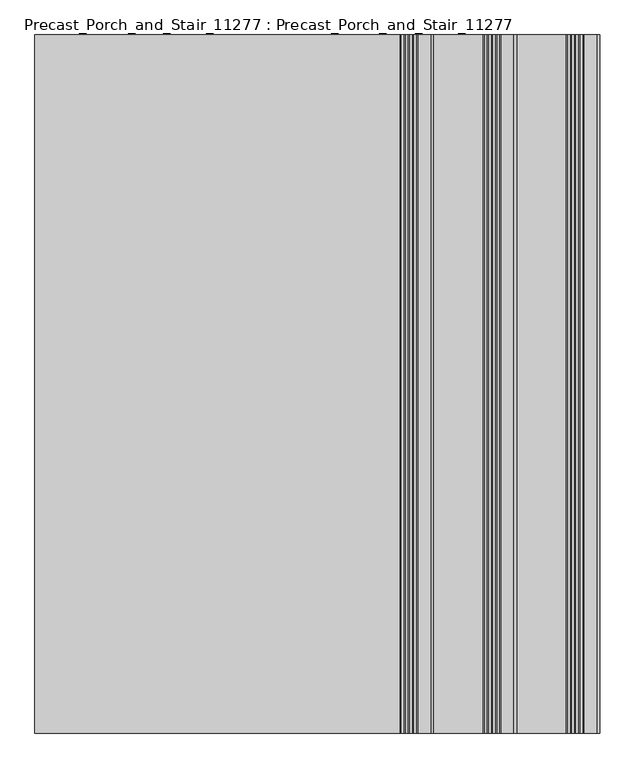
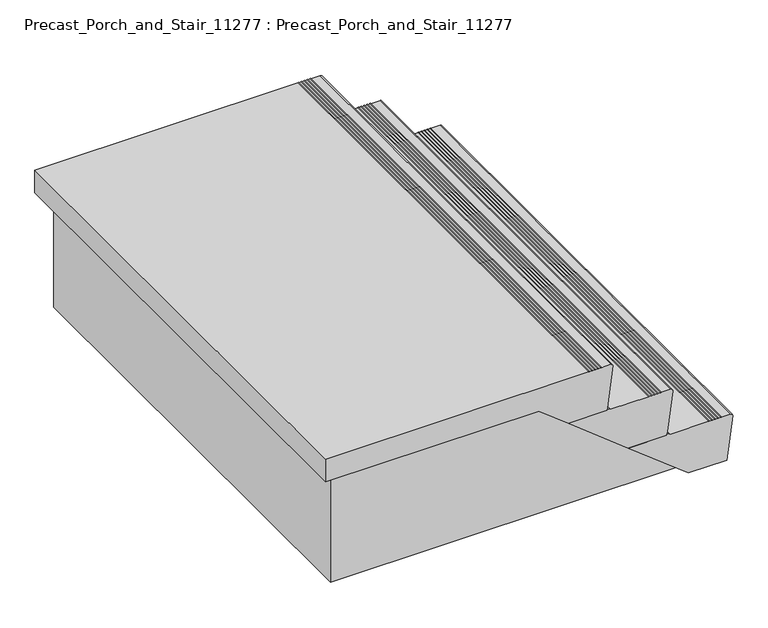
"""IFC4 building model written with IfcOpenShell, lengths in millimetres: proxy geometry, Precast_Porch_and_Stair_11277 : Precast_Porch_and_Stair_11277."""

import ifcopenshell
import ifcopenshell.guid

model = None  # the IFC model being written
_history = None  # IfcOwnerHistory: only IFC2X3 demands one
_inside = {}  # id of a spatial element -> (the spatial element, [elements in it])
_under = {}  # id of a project, library or spatial element -> (it, [spatial elements below it])
_declared = {}  # id of a project -> (the project, [libraries it declares])
_typed = {}  # id of a type object -> (the type object, [elements of that type])
_made_of = {}  # id of a material, layer set ... -> (it, [elements and type objects made of it])


def new_model(schema):
    """Start an empty IFC model of exactly this schema.

    Asked for "IFC4X3", IfcOpenShell would pick the latest addendum, in which some entities
    have other attributes; the version numbers below select the first issue.
    IFC2X3 requires an IfcOwnerHistory on every rooted entity: one is made here for all.
    """
    global model, _history
    if schema == "IFC4X3":
        model = ifcopenshell.file(schema_version=(4, 3, 0, 0))
    else:
        model = ifcopenshell.file(schema=schema)
    _inside.clear()
    _under.clear()
    _declared.clear()
    _typed.clear()
    _made_of.clear()
    _history = None
    if model.schema == "IFC2X3":
        org = make("IfcOrganization", Name="unknown")
        user = make(
            "IfcPersonAndOrganization",
            ThePerson=make("IfcPerson", FamilyName="unknown"),
            TheOrganization=org,
        )
        app = make(
            "IfcApplication",
            ApplicationDeveloper=org,
            Version="unknown",
            ApplicationFullName="unknown",
            ApplicationIdentifier="unknown",
        )
        _history = make(
            "IfcOwnerHistory",
            OwningUser=user,
            OwningApplication=app,
            ChangeAction="ADDED",
            CreationDate=0,
        )
    return model


def make(cls, **values):
    """One entity of the class cls with the attributes given. An attribute that is None is left unset."""
    return model.create_entity(
        cls, **{name: value for name, value in values.items() if value is not None}
    )


def rooted(cls, **values):
    """An entity with a GlobalId (a new one), such as an element, a storey or a relation."""
    return make(cls, GlobalId=ifcopenshell.guid.new(), OwnerHistory=_history, **values)


def si_unit(unit_type, name, prefix=None):
    """IfcSIUnit, for example si_unit("LENGTHUNIT", "METRE", prefix="MILLI")."""
    return make("IfcSIUnit", UnitType=unit_type, Prefix=prefix, Name=name)


def assignment(units):
    """IfcUnitAssignment: the units of a project."""
    return None if units is None else make("IfcUnitAssignment", Units=units)


def point(xyz):
    """IfcCartesianPoint."""
    return None if xyz is None else make("IfcCartesianPoint", Coordinates=xyz)


def direction(xyz):
    """IfcDirection."""
    return None if xyz is None else make("IfcDirection", DirectionRatios=xyz)


def frame(location, z_axis=None, x_axis=None):
    """IfcAxis2Placement3D, a coordinate frame: its origin and axes. An axis left out is left unset."""
    return make(
        "IfcAxis2Placement3D",
        Location=point(location),
        Axis=direction(z_axis),
        RefDirection=direction(x_axis),
    )


def frame_2d(location, x_axis=None):
    """IfcAxis2Placement2D, a coordinate frame in the plane: its origin and x axis."""
    return make(
        "IfcAxis2Placement2D", Location=point(location), RefDirection=direction(x_axis)
    )


def origin():
    """The frame at (0, 0, 0) with its axes left unset."""
    return frame((0.0, 0.0, 0.0))


def place(relative_to, where):
    """IfcLocalPlacement: puts the frame where relative to a parent placement (None: the world)."""
    return make(
        "IfcLocalPlacement", PlacementRelTo=relative_to, RelativePlacement=where
    )


def context(
    kind, dimensions, precision=None, world=None, true_north=None, identifier=None
):
    """IfcGeometricRepresentationContext, for example the 3D "Model" context."""
    return make(
        "IfcGeometricRepresentationContext",
        ContextIdentifier=identifier,
        ContextType=kind,
        CoordinateSpaceDimension=dimensions,
        Precision=precision,
        WorldCoordinateSystem=world,
        TrueNorth=true_north,
    )


def project(units=None, contexts=None):
    """IfcProject with its units and contexts."""
    return rooted(
        "IfcProject",
        Name="project",
        RepresentationContexts=contexts,
        UnitsInContext=assignment(units),
    )


def spatial(cls, under=None, at=None, **own):
    """A site, building, storey or space (cls), placed at a placement, below another one or the project."""
    s = rooted(cls, ObjectPlacement=at, **own)
    if under is not None:
        _under.setdefault(under.id(), (under, []))[1].append(s)
    return s


def polyline(points):
    """IfcPolyline through the points."""
    return make("IfcPolyline", Points=[point(p) for p in points])


def circle_curve(where, radius):
    """IfcCircle in the frame where."""
    return make("IfcCircle", Position=where, Radius=radius)


def trimmed(basis, trim1, trim2, sense, master):
    """IfcTrimmedCurve: the piece of a basis curve between two trims."""
    return make(
        "IfcTrimmedCurve",
        BasisCurve=basis,
        Trim1=trim1,
        Trim2=trim2,
        SenseAgreement=sense,
        MasterRepresentation=master,
    )


def segment(curve, same_sense, transition):
    """IfcCompositeCurveSegment."""
    return make(
        "IfcCompositeCurveSegment",
        Transition=transition,
        SameSense=same_sense,
        ParentCurve=curve,
    )


def composite_curve(segments, self_intersect=None):
    """IfcCompositeCurve: segments joined end to end."""
    return make("IfcCompositeCurve", Segments=segments, SelfIntersect=self_intersect)


def outline(outer, holes=None, kind="AREA"):
    """IfcArbitraryClosedProfileDef: a profile drawn as a closed curve; with holes, ...WithVoids."""
    if holes is None:
        return make("IfcArbitraryClosedProfileDef", ProfileType=kind, OuterCurve=outer)
    return make(
        "IfcArbitraryProfileDefWithVoids",
        ProfileType=kind,
        OuterCurve=outer,
        InnerCurves=holes,
    )


def extrude(swept, where, along, depth):
    """IfcExtrudedAreaSolid: the profile swept, set in the frame where, extruded along a direction by depth."""
    return make(
        "IfcExtrudedAreaSolid",
        SweptArea=swept,
        Position=where,
        ExtrudedDirection=direction(along),
        Depth=depth,
    )


def faces_of(points, faces, orient=None, outer=None):
    """IfcFace entities. A face is a list of loops; a loop is a list of indices into points, from 0.

    orient and outer hold one flag for each loop. By default every Orientation is true, the
    first loop of a face is its IfcFaceOuterBound and the others are IfcFaceBound.
    """
    made = []
    for i, loops in enumerate(faces):
        bounds = []
        for j, loop in enumerate(loops):
            is_outer = j == 0 if outer is None else outer[i][j]
            bounds.append(
                make(
                    "IfcFaceOuterBound" if is_outer else "IfcFaceBound",
                    Bound=make("IfcPolyLoop", Polygon=[points[k] for k in loop]),
                    Orientation=True if orient is None else orient[i][j],
                )
            )
        made.append(make("IfcFace", Bounds=bounds))
    return made


def faceted_brep(points, faces, orient=None, outer=None, voids=None):
    """IfcFacetedBrep: a solid bounded by flat faces; with voids (closed shells), ...WithVoids."""
    shared = [point(p) for p in points]
    hull = make("IfcClosedShell", CfsFaces=faces_of(shared, faces, orient, outer))
    if voids is None:
        return make("IfcFacetedBrep", Outer=hull)
    return make(
        "IfcFacetedBrepWithVoids",
        Outer=hull,
        Voids=[
            make(cls, CfsFaces=faces_of(shared, fs, o, b)) for cls, fs, o, b in voids
        ],
    )


def shape(context_of_items, identifier, shape_type, items):
    """IfcShapeRepresentation: the items that make up one representation, for example the "Body"."""
    return make(
        "IfcShapeRepresentation",
        ContextOfItems=context_of_items,
        RepresentationIdentifier=identifier,
        RepresentationType=shape_type,
        Items=items,
    )


def source(mapping_origin, context_of_items, identifier, shape_type, items):
    """IfcRepresentationMap: a shape defined once, which mapped items show again and again."""
    return make(
        "IfcRepresentationMap",
        MappingOrigin=mapping_origin,
        MappedRepresentation=shape(context_of_items, identifier, shape_type, items),
    )


def transform(
    local_origin,
    x_axis=None,
    y_axis=None,
    z_axis=None,
    scale=None,
    scale2=None,
    scale3=None,
    uniform=True,
):
    """IfcCartesianTransformationOperator3D, or its non-uniform kind. x_axis, y_axis, z_axis: its Axis1, 2, 3."""
    if uniform:
        return make(
            "IfcCartesianTransformationOperator3D",
            Axis1=direction(x_axis),
            Axis2=direction(y_axis),
            LocalOrigin=point(local_origin),
            Scale=scale,
            Axis3=direction(z_axis),
        )
    return make(
        "IfcCartesianTransformationOperator3DnonUniform",
        Axis1=direction(x_axis),
        Axis2=direction(y_axis),
        LocalOrigin=point(local_origin),
        Scale=scale,
        Axis3=direction(z_axis),
        Scale2=scale2,
        Scale3=scale3,
    )


def mapped(mapping_source, mapping_target):
    """IfcMappedItem: shows the shape of a source again, moved by a transform."""
    return make(
        "IfcMappedItem", MappingSource=mapping_source, MappingTarget=mapping_target
    )


def made_of(thing, what):
    """Note that an element or type object is made of a material, layer set ...; save() writes the relation."""
    if what is not None:
        _made_of.setdefault(what.id(), (what, []))[1].append(thing)
    return thing


def element(
    cls,
    number,
    at=None,
    inside=None,
    cuts=None,
    type_object=None,
    material=None,
    context=None,
    identifier="Body",
    shape_type=None,
    held_by="IfcProductDefinitionShape",
    body=None,
    shapes=None,
    **own,
):
    """One element of the class cls, such as IfcWall. Its Tag is "e" and its number.

    at: its placement. inside: the storey or other place that contains it. cuts: it is an
    opening in that element (IfcRelVoidsElement). A single representation is given by context,
    identifier, shape_type and body (its items); several are given by shapes. held_by: the class
    of the entity that holds the representations. save() writes the other relations.
    """
    e = rooted(cls, Tag="e%d" % number, ObjectPlacement=at, **own)
    if body is not None:
        shapes = [shape(context, identifier, shape_type, body)]
    if shapes is not None:
        e.Representation = make(held_by, Representations=shapes)
    if inside is not None:
        _inside.setdefault(inside.id(), (inside, []))[1].append(e)
    if cuts is not None:
        rooted(
            "IfcRelVoidsElement", RelatingBuildingElement=cuts, RelatedOpeningElement=e
        )
    if type_object is not None:
        _typed.setdefault(type_object.id(), (type_object, []))[1].append(e)
    return made_of(e, material)


def aggregate(whole, parts):
    """IfcRelAggregates: a whole, such as a stair, and the parts it consists of."""
    return rooted("IfcRelAggregates", RelatingObject=whole, RelatedObjects=parts)


def save(model, path):
    """Write the relations noted so far, then the file.

    IfcRelAggregates (storeys below a building ...), IfcRelContainedInSpatialStructure (elements
    in a storey), IfcRelDefinesByType, IfcRelAssociatesMaterial and IfcRelDeclares: one each for
    every whole, place, type object, material and project.
    """
    for whole, parts in _under.values():
        aggregate(whole, parts)
    for where, things in _inside.values():
        rooted(
            "IfcRelContainedInSpatialStructure",
            RelatedElements=things,
            RelatingStructure=where,
        )
    for kind, things in _typed.values():
        rooted("IfcRelDefinesByType", RelatedObjects=things, RelatingType=kind)
    for what, things in _made_of.values():
        rooted("IfcRelAssociatesMaterial", RelatedObjects=things, RelatingMaterial=what)
    for by, libraries in _declared.values():
        rooted("IfcRelDeclares", RelatingContext=by, RelatedDefinitions=libraries)
    model.write(path)


def plane_surface(at):
    """IfcPlane: the flat surface through the origin of the frame at, square to its z axis."""
    return make("IfcPlane", Position=at)


def cylinder_surface(at, radius):
    """IfcCylindricalSurface: all points at the distance radius from the z axis of the frame at."""
    return make("IfcCylindricalSurface", Position=at, Radius=radius)


def advanced_brep(points, edges, surfaces, faces):
    """IfcAdvancedBrep: a solid bounded by faces that lie on surfaces and meet in shared edges.

    An edge is (start, end): straight between two places in points (the first is 0);
    or (start, end, curve); or (start, end, curve, False) where it runs against its curve.
    A face is (place in surfaces, loops), or (place, loops, False) where it looks against
    its surface's normal. A loop lists edges by number (the first is 1), with a minus sign
    where the edge is run from its end to its start. The first loop is the outer one.
    """
    corners = [point(p) for p in points]
    vertices = [make("IfcVertexPoint", VertexGeometry=c) for c in corners]
    made = []
    for start, end, *more in edges:
        made.append(
            make(
                "IfcEdgeCurve",
                EdgeStart=vertices[start],
                EdgeEnd=vertices[end],
                EdgeGeometry=more[0] if more else make("IfcPolyline", Points=[corners[start], corners[end]]),
                SameSense=more[1] if len(more) > 1 else True,
            )
        )
    hull = []
    for where, loops, *sense in faces:
        bounds = []
        for j, loop in enumerate(loops):
            ring = [make("IfcOrientedEdge", EdgeElement=made[abs(k) - 1], Orientation=k > 0) for k in loop]
            bounds.append(
                make(
                    "IfcFaceOuterBound" if j == 0 else "IfcFaceBound",
                    Bound=make("IfcEdgeLoop", EdgeList=ring),
                    Orientation=True,
                )
            )
        hull.append(make("IfcAdvancedFace", Bounds=bounds, FaceSurface=surfaces[where], SameSense=sense[0] if sense else True))
    return make("IfcAdvancedBrep", Outer=make("IfcClosedShell", CfsFaces=hull))


def precast_porch_and_stair_11277_precast_porch_and_stair_11277_55bbf17a(model_context):
    return source(origin(), model_context, "Body", "SolidModel", [
        advanced_brep(
        [(0.0, -1066.8, 600.075), (0.0, -1066.8, 498.475), (904.5975565, -1066.8, 498.475), (1029.5816835, -1066.8, 400.05), (1193.8, -1066.8, 400.05), (1195.1618906, -1066.8, 410.7748884), (1218.0001116, -1066.8, 590.6258787), (1209.675, -1066.8, 600.075), (1169.9875, -1066.8, 600.075), (1166.8125, -1066.8, 600.075), (1157.2875, -1066.8, 600.075), (1154.1125, -1066.8, 600.075), (1144.5875, -1066.8, 600.075), (1141.4125, -1066.8, 600.075), (1131.8875, -1066.8, 600.075), (1128.7125, -1066.8, 600.075), (1119.1875, -1066.8, 600.075), (1116.0125, -1066.8, 600.075), (904.5975565, 1066.8, 498.475), (0.0, 1066.8, 498.475), (0.0, 1066.8, 600.075), (1116.0125, 1066.8, 600.075), (1119.1875, 1066.8, 600.075), (1128.7125, 1066.8, 600.075), (1131.8875, 1066.8, 600.075), (1141.4125, 1066.8, 600.075), (1144.5875, 1066.8, 600.075), (1154.1125, 1066.8, 600.075), (1157.2875, 1066.8, 600.075), (1166.8125, 1066.8, 600.075), (1169.9875, 1066.8, 600.075), (1209.675, 1066.8, 600.075), (1218.0001116, 1066.8, 590.6258787), (1195.1618906, 1066.8, 410.7748884), (1193.8, 1066.8, 400.05), (1029.5816835, 1066.8, 400.05)],
        [
            (0, 1),
            (1, 2),
            (2, 3),
            (3, 4),
            (4, 5),
            (5, 6),
            (6, 7, circle_curve(frame((1208.4751116, -1066.8, 590.6258787), z_axis=(0.0, -1.0, 0.0), x_axis=(-1.0, 0.0, 0.0)), 9.525)),
            (7, 8),
            (8, 9, circle_curve(frame((1168.4, -1066.8, 600.075), z_axis=(0.0, -1.0, 0.0), x_axis=(1.0, 0.0, 0.0)), 1.5875)),
            (9, 10),
            (10, 11, circle_curve(frame((1155.7, -1066.8, 600.075), z_axis=(0.0, -1.0, 0.0), x_axis=(1.0, 0.0, 0.0)), 1.5875)),
            (11, 12),
            (12, 13, circle_curve(frame((1143.0, -1066.8, 600.075), z_axis=(0.0, -1.0, 0.0), x_axis=(1.0, 0.0, 0.0)), 1.5875)),
            (13, 14),
            (14, 15, circle_curve(frame((1130.3, -1066.8, 600.075), z_axis=(0.0, -1.0, 0.0), x_axis=(1.0, 0.0, 0.0)), 1.5875)),
            (15, 16),
            (16, 17, circle_curve(frame((1117.6, -1066.8, 600.075), z_axis=(0.0, -1.0, 0.0), x_axis=(1.0, 0.0, 0.0)), 1.5875)),
            (17, 0),
            (18, 19),
            (19, 20),
            (20, 21),
            (21, 22, circle_curve(frame((1117.6, 1066.8, 600.075), z_axis=(0.0, 1.0, 0.0), x_axis=(1.0, 0.0, 0.0)), 1.5875)),
            (22, 23),
            (23, 24, circle_curve(frame((1130.3, 1066.8, 600.075), z_axis=(0.0, 1.0, 0.0), x_axis=(1.0, 0.0, 0.0)), 1.5875)),
            (24, 25),
            (25, 26, circle_curve(frame((1143.0, 1066.8, 600.075), z_axis=(0.0, 1.0, 0.0), x_axis=(1.0, 0.0, 0.0)), 1.5875)),
            (26, 27),
            (27, 28, circle_curve(frame((1155.7, 1066.8, 600.075), z_axis=(0.0, 1.0, 0.0), x_axis=(1.0, 0.0, 0.0)), 1.5875)),
            (28, 29),
            (29, 30, circle_curve(frame((1168.4, 1066.8, 600.075), z_axis=(0.0, 1.0, 0.0), x_axis=(1.0, 0.0, 0.0)), 1.5875)),
            (30, 31),
            (31, 32, circle_curve(frame((1208.4751116, 1066.8, 590.6258787), z_axis=(0.0, 1.0, 0.0), x_axis=(-1.0, 0.0, 0.0)), 9.525)),
            (32, 33),
            (33, 34),
            (34, 35),
            (35, 18),
            (1, 19),
            (18, 2),
            (20, 0),
            (17, 21),
            (3, 35),
            (34, 4),
            (30, 8),
            (7, 31),
            (32, 6),
            (29, 9),
            (28, 10),
            (27, 11),
            (26, 12),
            (25, 13),
            (24, 14),
            (23, 15),
            (22, 16),
        ],
        [
            plane_surface(frame((0.0, -1066.8, 600.075), z_axis=(0.0, -1.0, 0.0), x_axis=(-1.0, 0.0, 0.0))),
            plane_surface(frame((0.0, 1066.8, 600.075), z_axis=(0.0, 1.0, 0.0), x_axis=(1.0, 0.0, 0.0))),
            plane_surface(frame((0.0, -1066.8, 498.475), z_axis=(0.0, 0.0, -1.0), x_axis=(0.0, 1.0, 0.0))),
            plane_surface(frame((775.5816835, -1066.8, 600.075), z_axis=(0.0, 0.0, 1.0), x_axis=(0.0, 1.0, 0.0))),
            plane_surface(frame((0.0, -1066.8, 600.075), z_axis=(-1.0, 0.0, 0.0), x_axis=(0.0, 1.0, 0.0))),
            plane_surface(frame((1029.5816835, -1066.8, 400.05), z_axis=(-2.8825566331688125e-11, 0.0, -1.0), x_axis=(0.0, 1.0, 0.0))),
            plane_surface(frame((1219.2, -1066.8, 600.075), z_axis=(0.0, 0.0, 1.0), x_axis=(0.0, 1.0, 0.0))),
            plane_surface(frame((1193.8, -1066.8, 400.05), z_axis=(0.9920337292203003, 0.0, -0.12597253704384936), x_axis=(0.0, 1.0, 0.0))),
            plane_surface(frame((775.5816835, -1066.8, 600.075), z_axis=(-0.618688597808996, 0.0, -0.7856363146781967), x_axis=(0.0, 1.0, 0.0))),
            cylinder_surface(frame((1168.4, 1066.8, 600.075), z_axis=(0.0, -1.0, 0.0), x_axis=(1.0, 0.0, 0.0)), 1.5875),
            plane_surface(frame((1166.8125, -1066.8, 600.075), z_axis=(0.0, 0.0, 1.0), x_axis=(0.0, 1.0, 0.0))),
            cylinder_surface(frame((1155.7, 1066.8, 600.075), z_axis=(0.0, -1.0, 0.0), x_axis=(1.0, 0.0, 0.0)), 1.5875),
            plane_surface(frame((1154.1125, -1066.8, 600.075), z_axis=(0.0, 0.0, 1.0), x_axis=(0.0, 1.0, 0.0))),
            cylinder_surface(frame((1143.0, 1066.8, 600.075), z_axis=(0.0, -1.0, 0.0), x_axis=(1.0, 0.0, 0.0)), 1.5875),
            plane_surface(frame((1141.4125, -1066.8, 600.075), z_axis=(0.0, 0.0, 1.0), x_axis=(0.0, 1.0, 0.0))),
            cylinder_surface(frame((1130.3, 1066.8, 600.075), z_axis=(0.0, -1.0, 0.0), x_axis=(1.0, 0.0, 0.0)), 1.5875),
            plane_surface(frame((1128.7125, -1066.8, 600.075), z_axis=(0.0, 0.0, 1.0), x_axis=(0.0, 1.0, 0.0))),
            cylinder_surface(frame((1117.6, 1066.8, 600.075), z_axis=(0.0, -1.0, 0.0), x_axis=(1.0, 0.0, 0.0)), 1.5875),
            cylinder_surface(frame((1208.4751116, -1066.8, 590.6258787), z_axis=(0.0, -1.0, 0.0), x_axis=(-1.0, 0.0, 0.0)), 9.525),
        ],
        [
            (0, [[1, 2, 3, 4, 5, 6, 7, 8, 9, 10, 11, 12, 13, 14, 15, 16, 17, 18]]),
            (1, [[19, 20, 21, 22, 23, 24, 25, 26, 27, 28, 29, 30, 31, 32, 33, 34, 35, 36]]),
            (2, [[-2, 37, -19, 38]]),
            (3, [[39, -18, 40, -21]]),
            (4, [[-1, -39, -20, -37]]),
            (5, [[-4, 41, -35, 42]]),
            (6, [[43, -8, 44, -31]]),
            (7, [[-42, -34, -33, 45, -6, -5]]),
            (8, [[-41, -3, -38, -36]]),
            (9, [[-9, -43, -30, 46]]),
            (10, [[-10, -46, -29, 47]]),
            (11, [[-11, -47, -28, 48]]),
            (12, [[-12, -48, -27, 49]]),
            (13, [[-13, -49, -26, 50]]),
            (14, [[-14, -50, -25, 51]]),
            (15, [[-15, -51, -24, 52]]),
            (16, [[-16, -52, -23, 53]]),
            (17, [[-17, -53, -22, -40]]),
            (18, [[-7, -45, -32, -44]]),
        ],
    ),
        faceted_brep([(50.8, 1016.0, 498.475), (50.8, -1016.0, 498.475), (904.5975565, -1016.0, 498.475), (904.5975565, -914.4, 498.475), (152.4, -914.4, 498.475), (152.4, 914.4, 498.475), (904.5975565, 914.4, 498.475), (904.5975565, 1016.0, 498.475), (1537.5816835, 1016.0, 0.0), (1537.5816835, 914.4, 0.0), (152.4, 914.4, 0.0), (152.4, -914.4, 0.0), (1537.5816835, -914.4, 0.0), (1537.5816835, -1016.0, 0.0), (50.8, -1016.0, 0.0), (50.8, 1016.0, 0.0)], [[[0, 1, 2, 3, 4, 5, 6, 7]], [[8, 9, 10, 11, 12, 13, 14, 15]], [[1, 0, 15, 14]], [[2, 1, 14, 13]], [[4, 3, 12, 11]], [[5, 4, 11, 10]], [[6, 5, 10, 9]], [[0, 7, 8, 15]], [[2, 13, 12, 3]], [[8, 7, 6, 9]]]),
        extrude(outline(composite_curve([segment(trimmed(circle_curve(frame_2d((200.025, 1676.4)), 1.5875), [point((200.025, 1677.9875))], [point((200.025, 1674.8125))], False, "CARTESIAN"), True, "CONTINUOUS"), segment(polyline([(200.025, 1674.8125), (200.025, 1665.2875)]), True, "CONTINUOUS"), segment(trimmed(circle_curve(frame_2d((200.025, 1663.7)), 1.5875), [point((200.025, 1665.2875))], [point((200.025, 1662.1125))], False, "CARTESIAN"), True, "CONTINUOUS"), segment(polyline([(200.025, 1662.1125), (200.025, 1652.5875)]), True, "CONTINUOUS"), segment(trimmed(circle_curve(frame_2d((200.025, 1651.0)), 1.5875), [point((200.025, 1652.5875))], [point((200.025, 1649.4125))], False, "CARTESIAN"), True, "CONTINUOUS"), segment(polyline([(200.025, 1649.4125), (200.025, 1639.8875)]), True, "CONTINUOUS"), segment(trimmed(circle_curve(frame_2d((200.025, 1638.3)), 1.5875), [point((200.025, 1639.8875))], [point((200.025, 1636.7125))], False, "CARTESIAN"), True, "CONTINUOUS"), segment(polyline([(200.025, 1636.7125), (200.025, 1627.1875)]), True, "CONTINUOUS"), segment(trimmed(circle_curve(frame_2d((200.025, 1625.6)), 1.5875), [point((200.025, 1627.1875))], [point((200.025, 1624.0125))], False, "CARTESIAN"), True, "CONTINUOUS"), segment(polyline([(200.025, 1624.0125), (200.025, 1461.7860119)]), True, "CONTINUOUS"), segment(trimmed(circle_curve(frame_2d((212.8172855, 1461.7860119)), 12.7922855), [point((200.025, 1461.7860119))], [point((210.7498884, 1449.1618906))], True, "CARTESIAN"), True, "CONTINUOUS"), segment(polyline([(210.7498884, 1449.1618906), (200.025, 1447.8), (200.025, 1283.5816835), (0.0, 1537.5816835), (0.0, 1701.8), (189.3001116, 1725.8381094)]), True, "CONTINUOUS"), segment(trimmed(circle_curve(frame_2d((190.5, 1716.3889881)), 9.525), [point((189.3001116, 1725.8381094))], [point((200.025, 1716.3889881))], False, "CARTESIAN"), True, "CONTINUOUS"), segment(polyline([(200.025, 1716.3889881), (200.025, 1677.9875)]), True, "CONTINUOUS")], self_intersect=False)), frame((0.0, -1066.8, 0.0), z_axis=(0.0, 1.0, 0.0), x_axis=(0.0, 0.0, 1.0)), (0.0, 0.0, 1.0), 2133.6),
        extrude(outline(composite_curve([segment(trimmed(circle_curve(frame_2d((400.05, 1422.4)), 1.5875), [point((400.05, 1423.9875))], [point((400.05, 1420.8125))], False, "CARTESIAN"), True, "CONTINUOUS"), segment(polyline([(400.05, 1420.8125), (400.05, 1411.2875)]), True, "CONTINUOUS"), segment(trimmed(circle_curve(frame_2d((400.05, 1409.7)), 1.5875), [point((400.05, 1411.2875))], [point((400.05, 1408.1125))], False, "CARTESIAN"), True, "CONTINUOUS"), segment(polyline([(400.05, 1408.1125), (400.05, 1398.5875)]), True, "CONTINUOUS"), segment(trimmed(circle_curve(frame_2d((400.05, 1397.0)), 1.5875), [point((400.05, 1398.5875))], [point((400.05, 1395.4125))], False, "CARTESIAN"), True, "CONTINUOUS"), segment(polyline([(400.05, 1395.4125), (400.05, 1385.8875)]), True, "CONTINUOUS"), segment(trimmed(circle_curve(frame_2d((400.05, 1384.3)), 1.5875), [point((400.05, 1385.8875))], [point((400.05, 1382.7125))], False, "CARTESIAN"), True, "CONTINUOUS"), segment(polyline([(400.05, 1382.7125), (400.05, 1373.1875)]), True, "CONTINUOUS"), segment(trimmed(circle_curve(frame_2d((400.05, 1371.6)), 1.5875), [point((400.05, 1373.1875))], [point((400.05, 1370.0125))], False, "CARTESIAN"), True, "CONTINUOUS"), segment(polyline([(400.05, 1370.0125), (400.05, 1207.7860119)]), True, "CONTINUOUS"), segment(trimmed(circle_curve(frame_2d((412.8422855, 1207.7860119)), 12.7922855), [point((400.05, 1207.7860119))], [point((410.7748884, 1195.1618906))], True, "CARTESIAN"), True, "CONTINUOUS"), segment(polyline([(410.7748884, 1195.1618906), (400.05, 1193.8), (400.05, 1029.5816835), (200.025, 1283.5816835), (200.025, 1447.8), (389.3251116, 1471.8381094)]), True, "CONTINUOUS"), segment(trimmed(circle_curve(frame_2d((390.525, 1462.3889881)), 9.525), [point((389.3251116, 1471.8381094))], [point((400.05, 1462.3889881))], False, "CARTESIAN"), True, "CONTINUOUS"), segment(polyline([(400.05, 1462.3889881), (400.05, 1423.9875)]), True, "CONTINUOUS")], self_intersect=False)), frame((0.0, -1066.8, 0.0), z_axis=(0.0, 1.0, 0.0), x_axis=(0.0, 0.0, 1.0)), (0.0, 0.0, 1.0), 2133.6),
    ])


if __name__ == "__main__":
    model = new_model("IFC4")
    model_context = context("Model", 3, world=origin())
    ifc_project = project(units=[si_unit("LENGTHUNIT", "METRE", prefix="MILLI")], contexts=[model_context])
    site = spatial("IfcSite", under=ifc_project)
    building = spatial("IfcBuilding", under=site)
    placement = place(None, origin())
    precast_porch_and_stair_11277_precast_porch_and_stair_11277_shape = precast_porch_and_stair_11277_precast_porch_and_stair_11277_55bbf17a(model_context)
    element("IfcBuildingElementProxy", 1, Name="Precast_Porch_and_Stair_11277 : Precast_Porch_and_Stair_11277", ObjectType="Precast_Porch_and_Stair_11277 : Precast_Porch_and_Stair_11277", at=placement, inside=building, context=model_context, shape_type="MappedRepresentation", body=[
        mapped(precast_porch_and_stair_11277_precast_porch_and_stair_11277_shape, transform((0.0, 0.0, 0.0), x_axis=(1.0, 0.0, 0.0), y_axis=(0.0, 1.0, 0.0), z_axis=(0.0, 0.0, 1.0))),
    ])
    save(model, "model.ifc")
